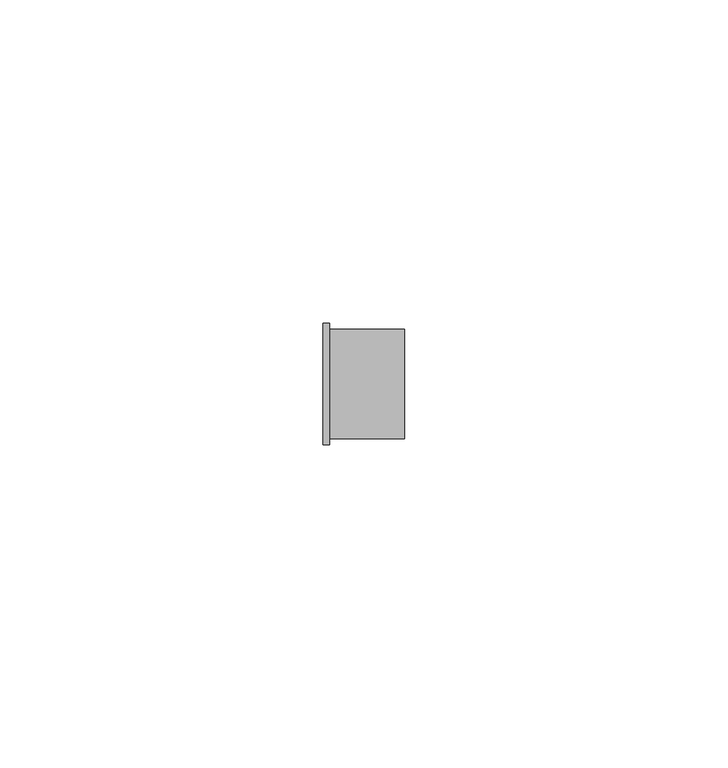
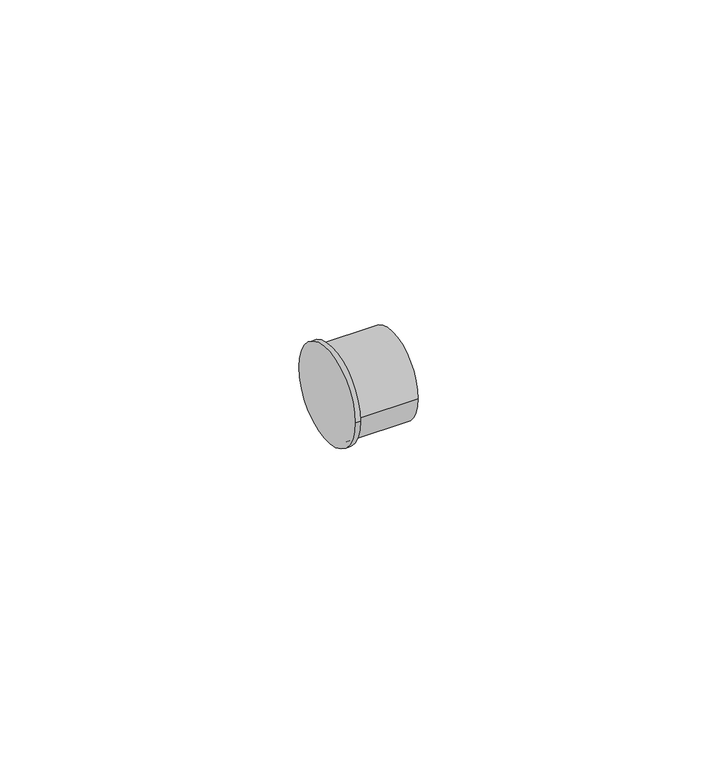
"""IFC4 building model written with IfcOpenShell, lengths in millimetres: pipe fitting geometry, Bucha de redução reta - Soldada - CU : Padrão."""

from ifc_helpers import new_model, si_unit, frame, origin, place, context, project, spatial, circle_curve, source, transform, mapped, element, save
from ifc_brep_helpers import plane_surface, cylinder_surface, advanced_brep


def pipe_fitting_d3e019f1(model_context):
    return source(origin(), model_context, "Body", "AdvancedBrep", [
        advanced_brep(
        [(0.0, -9.425, 0.0), (0.0, 9.425, 0.0), (1.0, -9.425, 0.0), (1.0, 9.425, 0.0), (1.0, -8.509, 0.0), (1.0, 8.509, 0.0), (12.673, -8.509, 0.0), (12.673, 8.509, 0.0)],
        [
            (0, 1, circle_curve(frame((0.0, 0.0, 0.0), z_axis=(-1.0, 0.0, 0.0), x_axis=(0.0, 1.0, 0.0)), 9.425)),
            (1, 0, circle_curve(frame((0.0, 0.0, 0.0), z_axis=(-1.0, 0.0, 0.0), x_axis=(0.0, 1.0, 0.0)), 9.425)),
            (2, 3, circle_curve(frame((1.0, 0.0, 0.0), z_axis=(1.0, 0.0, 0.0), x_axis=(0.0, 1.0, 0.0)), 9.425)),
            (3, 2, circle_curve(frame((1.0, 0.0, 0.0), z_axis=(1.0, 0.0, 0.0), x_axis=(0.0, 1.0, 0.0)), 9.425)),
            (4, 5, circle_curve(frame((1.0, 0.0, 0.0), z_axis=(-1.0, 0.0, 0.0), x_axis=(0.0, 1.0, 0.0)), 8.509)),
            (5, 4, circle_curve(frame((1.0, 0.0, 0.0), z_axis=(-1.0, 0.0, 0.0), x_axis=(0.0, 1.0, 0.0)), 8.509)),
            (0, 2),
            (3, 1),
            (6, 7, circle_curve(frame((12.673, 0.0, 0.0), z_axis=(1.0, 0.0, 0.0), x_axis=(0.0, 1.0, 0.0)), 8.509)),
            (7, 6, circle_curve(frame((12.673, 0.0, 0.0), z_axis=(1.0, 0.0, 0.0), x_axis=(0.0, 1.0, 0.0)), 8.509)),
            (7, 5),
            (4, 6),
        ],
        [
            plane_surface(frame((0.0, 0.0, 0.0), z_axis=(-1.0, 0.0, 0.0), x_axis=(0.0, 0.0, 1.0))),
            plane_surface(frame((1.0, 0.0, 0.0), z_axis=(1.0, 0.0, 0.0), x_axis=(0.0, 0.0, 1.0))),
            cylinder_surface(frame((0.0, 0.0, 0.0), z_axis=(-1.0, 0.0, 0.0), x_axis=(0.0, 1.0, 0.0)), 9.425),
            plane_surface(frame((12.673, 0.0, 0.0), z_axis=(1.0, 0.0, 0.0), x_axis=(0.0, 0.0, 1.0))),
            cylinder_surface(frame((1.0, 0.0, 0.0), z_axis=(-1.0, 0.0, 0.0), x_axis=(0.0, 1.0, 0.0)), 8.509),
        ],
        [
            (0, [[1, 2]]),
            (1, [[3, 4], [5, 6]]),
            (2, [[-1, 7, -4, 8]]),
            (2, [[-2, -8, -3, -7]]),
            (3, [[9, 10]]),
            (4, [[-10, 11, -5, 12]]),
            (4, [[-9, -12, -6, -11]]),
        ],
    ),
    ])


if __name__ == "__main__":
    model = new_model("IFC4")
    model_context = context("Model", 3, world=origin())
    ifc_project = project(units=[si_unit("LENGTHUNIT", "METRE", prefix="MILLI")], contexts=[model_context])
    site = spatial("IfcSite", under=ifc_project)
    building = spatial("IfcBuilding", under=site)
    placement = place(None, origin())
    pipe_fitting_shape = pipe_fitting_d3e019f1(model_context)
    element("IfcPipeFitting", 1, ObjectType="Bucha de redução reta - Soldada - CU : Padrão", at=placement, inside=building, context=model_context, shape_type="MappedRepresentation", body=[
        mapped(pipe_fitting_shape, transform((0.0, 0.0, 0.0), x_axis=(1.0, 0.0, 0.0), y_axis=(0.0, 1.0, 0.0), z_axis=(0.0, 0.0, 1.0))),
    ])
    save(model, "model.ifc")
